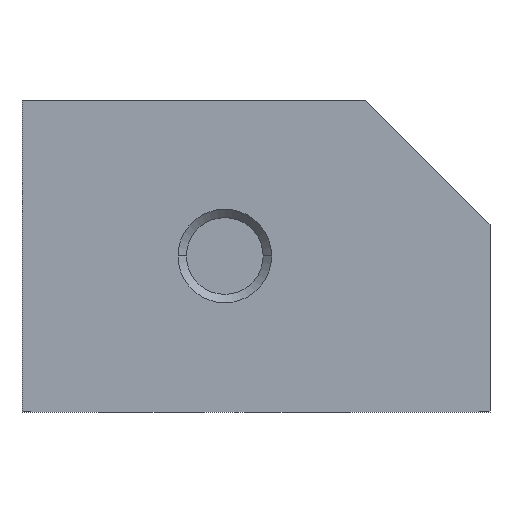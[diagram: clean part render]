
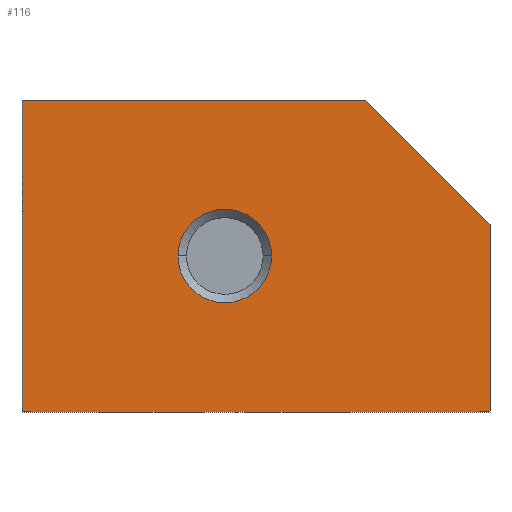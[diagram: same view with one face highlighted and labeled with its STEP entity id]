
A CAD part, front view. The second image highlights one B-rep face of the part: STEP entity #116.
In plain terms, the highlighted planar face has unit normal (0, -1, 0).
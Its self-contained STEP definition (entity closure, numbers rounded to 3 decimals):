
#116=ADVANCED_FACE('',(#243,#179),#583,.T.);
#179=FACE_OUTER_BOUND('',#258,.F.);
#243=FACE_BOUND('',#257,.F.);
#257=EDGE_LOOP('',(#342,#343));
#258=EDGE_LOOP('',(#344,#345,#346,#347,#348));
#342=ORIENTED_EDGE('',*,*,#735,.T.);
#343=ORIENTED_EDGE('',*,*,#736,.T.);
#344=ORIENTED_EDGE('',*,*,#739,.F.);
#345=ORIENTED_EDGE('',*,*,#723,.T.);
#346=ORIENTED_EDGE('',*,*,#737,.F.);
#347=ORIENTED_EDGE('',*,*,#722,.T.);
#348=ORIENTED_EDGE('',*,*,#738,.T.);
#583=PLANE('',#1031);
#602=LINE('',#1513,#661);
#603=LINE('',#1514,#662);
#611=LINE('',#1528,#670);
#612=LINE('',#1529,#671);
#613=LINE('',#1530,#672);
#661=VECTOR('',#1137,15.);
#662=VECTOR('',#1138,5.657);
#670=VECTOR('',#1158,6.);
#671=VECTOR('',#1159,10.);
#672=VECTOR('',#1160,11.);
#722=EDGE_CURVE('',#952,#951,#602,.T.);
#723=EDGE_CURVE('',#950,#949,#603,.T.);
#735=EDGE_CURVE('',#943,#942,#851,.T.);
#736=EDGE_CURVE('',#942,#943,#852,.T.);
#737=EDGE_CURVE('',#952,#949,#611,.T.);
#738=EDGE_CURVE('',#951,#941,#612,.T.);
#739=EDGE_CURVE('',#950,#941,#613,.T.);
#851=CIRCLE('',#999,1.5);
#852=CIRCLE('',#1000,1.5);
#941=VERTEX_POINT('',#1491);
#942=VERTEX_POINT('',#1492);
#943=VERTEX_POINT('',#1493);
#949=VERTEX_POINT('',#1499);
#950=VERTEX_POINT('',#1500);
#951=VERTEX_POINT('',#1501);
#952=VERTEX_POINT('',#1502);
#999=AXIS2_PLACEMENT_3D('',#1526,#1154,#1155);
#1000=AXIS2_PLACEMENT_3D('',#1527,#1156,#1157);
#1031=AXIS2_PLACEMENT_3D('',#1582,#1242,#1243);
#1137=DIRECTION('',(-1.,0.,0.));
#1138=DIRECTION('',(0.707,0.,-0.707));
#1154=DIRECTION('',(0.,-1.,0.));
#1155=DIRECTION('',(-1.,0.,0.));
#1156=DIRECTION('',(0.,-1.,0.));
#1157=DIRECTION('',(1.,0.,0.));
#1158=DIRECTION('',(0.,0.,1.));
#1159=DIRECTION('',(0.,0.,1.));
#1160=DIRECTION('',(-1.,0.,0.));
#1242=DIRECTION('',(0.,-1.,0.));
#1243=DIRECTION('',(-1.,0.,0.));
#1491=CARTESIAN_POINT('',(228.632,722.357,331.61));
#1492=CARTESIAN_POINT('',(236.632,722.357,326.61));
#1493=CARTESIAN_POINT('',(233.632,722.357,326.61));
#1499=CARTESIAN_POINT('',(243.632,722.357,327.61));
#1500=CARTESIAN_POINT('',(239.632,722.357,331.61));
#1501=CARTESIAN_POINT('',(228.632,722.357,321.61));
#1502=CARTESIAN_POINT('',(243.632,722.357,321.61));
#1513=CARTESIAN_POINT('',(243.632,722.357,321.61));
#1514=CARTESIAN_POINT('',(239.632,722.357,331.61));
#1526=CARTESIAN_POINT('',(235.132,722.357,326.61));
#1527=CARTESIAN_POINT('',(235.132,722.357,326.61));
#1528=CARTESIAN_POINT('',(243.632,722.357,321.61));
#1529=CARTESIAN_POINT('',(228.632,722.357,321.61));
#1530=CARTESIAN_POINT('',(239.632,722.357,331.61));
#1582=CARTESIAN_POINT('',(243.782,722.357,331.76));
